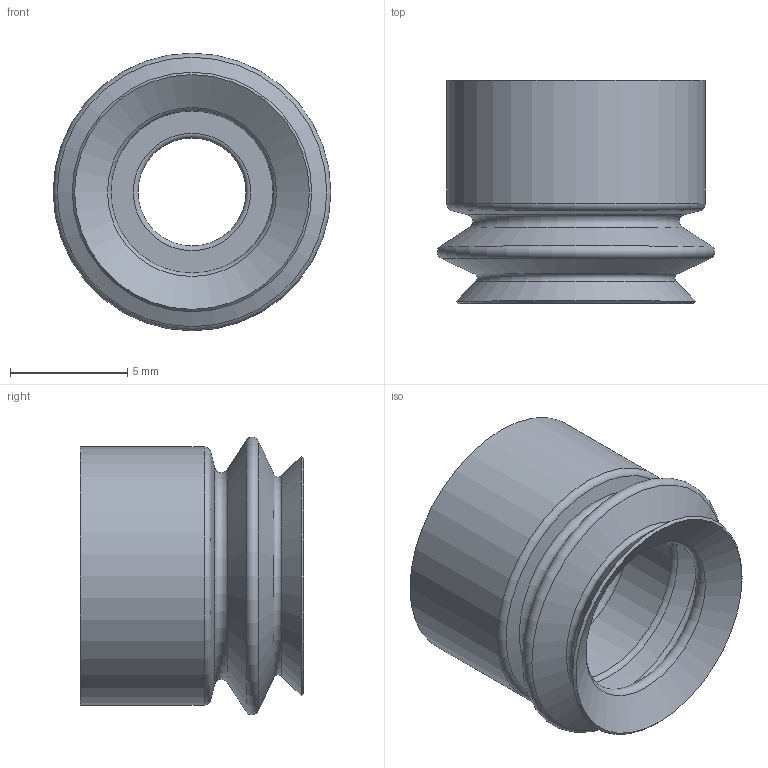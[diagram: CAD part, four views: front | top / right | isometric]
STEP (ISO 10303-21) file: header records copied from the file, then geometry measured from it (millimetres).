
FILE_DESCRIPTION(('STEP AP203'),'1');
FILE_NAME('_3D.stp','2024-06-11T23:54:50',(' '),(' '),'Spatial InterOp 3D',' ',' ');
FILE_SCHEMA(('CONFIG_CONTROL_DESIGN'));
Length unit declared in the file: millimetre
Products named in the file (1): 1
Bounding box: 11.83 x 9.5 x 11.83 mm (x, y, z)
Volume: 461.7 mm3; surface area: 768.9 mm2
Topology: 1 solids, 1 shells, 23 faces, 57 edges, 36 vertices
Faces by surface type: torus 10, cone 8, cylinder 3, plane 2
Full cylindrical faces by diameter (mm): 4.6 x1, 7.8 x1, 11 x1
Entity records: 512 total; most frequent: DIRECTION 94, CARTESIAN_POINT 70, AXIS2_PLACEMENT_3D 47, EDGE_LOOP 46, ORIENTED_EDGE 46, FACE_OUTER_BOUND 36, ADVANCED_FACE 23, EDGE_CURVE 23
